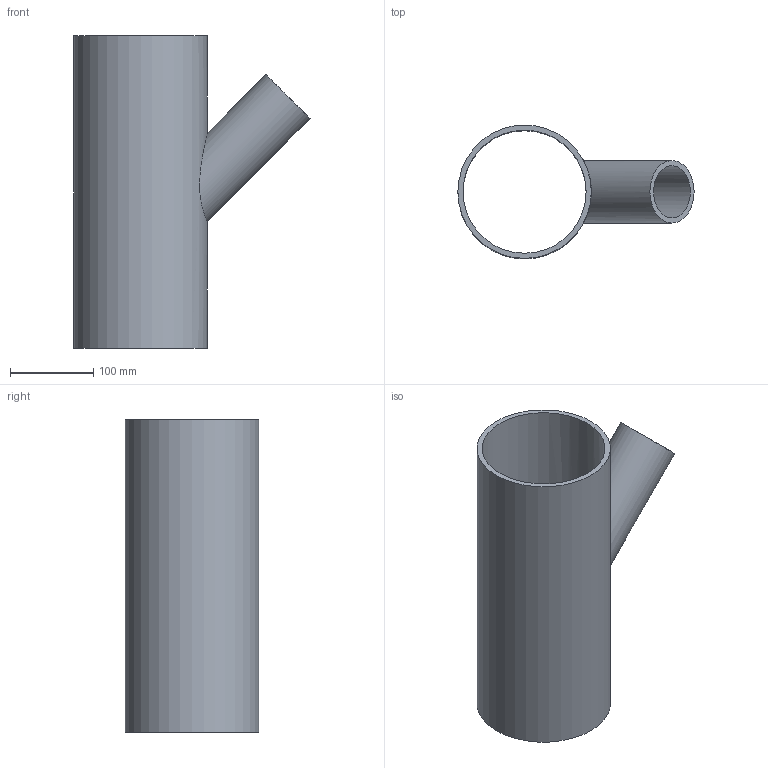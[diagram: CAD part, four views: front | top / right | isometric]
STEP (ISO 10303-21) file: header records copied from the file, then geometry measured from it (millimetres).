
FILE_DESCRIPTION(/* description */ (''),/* implementation_level */ '2;1');
FILE_NAME(/* name */ 'C:\Planerdaten\Export PLA\PRO_101557\stp\369125.stp',/* time_stamp */ '2021-09-30T15:07:44+02:00',/* author */ ('JANAN'),/* organization */ (''),/* preprocessor_version */ 'ST-DEVELOPER v16.13',/* originating_system */ 'Autodesk Inventor 2018',/* authorisation */ '');
FILE_SCHEMA (('AUTOMOTIVE_DESIGN { 1 0 10303 214 3 1 1 }'));
Length unit declared in the file: millimetre
Products named in the file (1): tmpE2F0.tmp
Bounding box: 283.29 x 160 x 375 mm (x, y, z)
Volume: 1286688.2 mm3; surface area: 422197.8 mm2
Topology: 1 solids, 1 shells, 7 faces, 17 edges, 12 vertices
Faces by surface type: cylinder 4, plane 3
Full cylindrical faces by diameter (mm): 62.6 x1, 75 x1, 147.6 x1, 160 x1
Entity records: 326 total; most frequent: CARTESIAN_POINT 148, DIRECTION 28, EDGE_LOOP 16, ORIENTED_EDGE 16, AXIS2_PLACEMENT_3D 14, FACE_BOUND 9, VERTEX_POINT 8, EDGE_CURVE 8
